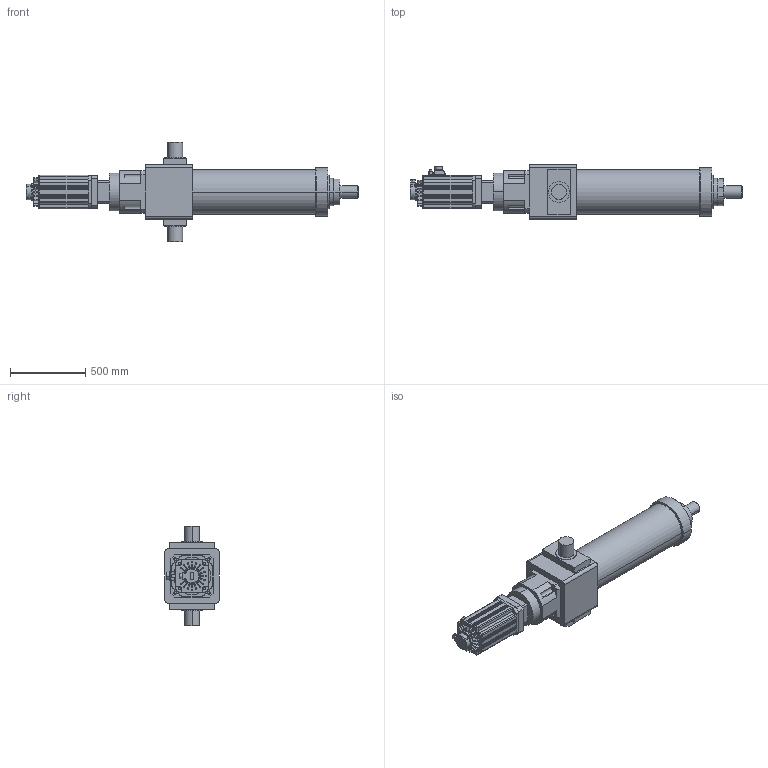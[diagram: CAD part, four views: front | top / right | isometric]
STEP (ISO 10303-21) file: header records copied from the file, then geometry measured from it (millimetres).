
FILE_DESCRIPTION (( 'STEP AP203' ), '1' );
FILE_NAME ('S12眻盄嫉粣假蚾.STEP', '2024-08-16T07:08:40', ( '' ), ( '' ), 'SwSTEP 2.0', 'SolidWorks 2018', '' );
FILE_SCHEMA (( 'CONFIG_CONTROL_DESIGN' ));
Length unit declared in the file: millimetre
Products named in the file (4): S12眻盄嫉粣; 000; S12眻盄嫉粣假蚾; ECMA-F1221BS3-220框號系列機種-11KW高慣量系列
Assembly tree (3 placements, depth 2):
  S12眻盄嫉粣假蚾
    S12眻盄嫉粣
    000
    ECMA-F1221BS3-220框號系列機種-11KW高慣量系列
Bounding box: 2206.5 x 360 x 660 mm (x, y, z)
Volume: 131367594.3 mm3; surface area: 3010717.9 mm2
Topology: 2 solids, 8 shells, 908 faces, 2336 edges, 1506 vertices
Faces by surface type: plane 444, cylinder 309, cone 116, bspline 18, torus 13, sphere 8
Entity records: 30001 total; most frequent: CARTESIAN_POINT 7644, DIRECTION 4593, ORIENTED_EDGE 4384, EDGE_CURVE 2334, AXIS2_PLACEMENT_3D 1683, VERTEX_POINT 1506, LINE 1227, VECTOR 1227
